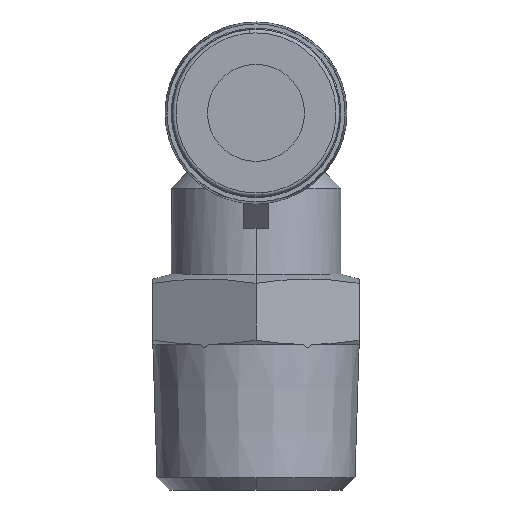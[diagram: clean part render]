
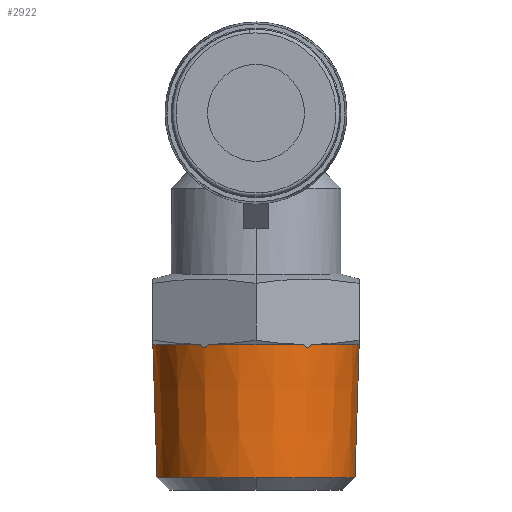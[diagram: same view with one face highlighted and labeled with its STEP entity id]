
A CAD part, left-side view. The second image highlights one B-rep face of the part: STEP entity #2922.
In plain terms, the highlighted conical face has half-angle 1.79 degrees and reference radius 8.508 mm.
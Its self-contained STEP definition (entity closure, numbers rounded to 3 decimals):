
#4 = EDGE_CURVE ( 'NONE', #1217, #2783, #3505, .T. ) ;
#32 = CIRCLE ( 'NONE', #2665, 8.508 ) ;
#91 = CARTESIAN_POINT ( 'NONE',  ( 0., -8.508, 12. ) ) ;
#123 = CARTESIAN_POINT ( 'NONE',  ( 0., 8.508, 12. ) ) ;
#136 = CARTESIAN_POINT ( 'NONE',  ( -7.541, 3.939, 12. ) ) ;
#148 = EDGE_CURVE ( 'NONE', #2166, #2783, #1481, .T. ) ;
#191 = CARTESIAN_POINT ( 'NONE',  ( 0., 0., 1.014 ) ) ;
#205 = DIRECTION ( 'NONE',  ( 0., 0.031, 1. ) ) ;
#274 = DIRECTION ( 'NONE',  ( 0., 0., 1. ) ) ;
#330 = DIRECTION ( 'NONE',  ( -0.036, 0.999, 0. ) ) ;
#489 = CARTESIAN_POINT ( 'NONE',  ( 0., -8.5, 11.758 ) ) ;
#508 = ORIENTED_EDGE ( 'NONE', *, *, #3647, .T. ) ;
#545 = DIRECTION ( 'NONE',  ( -0.884, 0.468, 0. ) ) ;
#569 = CARTESIAN_POINT ( 'NONE',  ( -7.398, -4.186, 11.758 ) ) ;
#570 = CARTESIAN_POINT ( 'NONE',  ( 0., 0., 12. ) ) ;
#603 = DIRECTION ( 'NONE',  ( 0., 0., 1. ) ) ;
#605 = CARTESIAN_POINT ( 'NONE',  ( -7.182, 4.561, 12. ) ) ;
#616 = FACE_OUTER_BOUND ( 'NONE', #2422, .T. ) ;
#624 = CARTESIAN_POINT ( 'NONE',  ( -0.146, -8.5, 11.792 ) ) ;
#717 = CARTESIAN_POINT ( 'NONE',  ( -0.359, 8.5, 12. ) ) ;
#718 = CARTESIAN_POINT ( 'NONE',  ( -0.264, -8.5, 11.883 ) ) ;
#760 = CARTESIAN_POINT ( 'NONE',  ( -7.182, -4.561, 12. ) ) ;
#767 = CARTESIAN_POINT ( 'NONE',  ( -0.314, -8.5, 11.94 ) ) ;
#847 = CARTESIAN_POINT ( 'NONE',  ( -7.204, -4.522, 11.94 ) ) ;
#897 = EDGE_CURVE ( 'NONE', #2287, #3228, #32, .T. ) ;
#904 = ORIENTED_EDGE ( 'NONE', *, *, #3640, .F. ) ;
#911 = VERTEX_POINT ( 'NONE', #1701 ) ;
#942 = EDGE_CURVE ( 'NONE', #2874, #1268, #2943, .T. ) ;
#991 = ORIENTED_EDGE ( 'NONE', *, *, #3287, .T. ) ;
#1025 = CARTESIAN_POINT ( 'NONE',  ( -0.075, -8.5, 11.758 ) ) ;
#1156 = LINE ( 'NONE', #91, #1950 ) ;
#1165 = CARTESIAN_POINT ( 'NONE',  ( 0., 8.164, 1.014 ) ) ;
#1217 = VERTEX_POINT ( 'NONE', #1165 ) ;
#1268 = VERTEX_POINT ( 'NONE', #1782 ) ;
#1423 = DIRECTION ( 'NONE',  ( 0., 0., 1. ) ) ;
#1449 = CARTESIAN_POINT ( 'NONE',  ( -0.359, -8.5, 12. ) ) ;
#1481 = B_SPLINE_CURVE_WITH_KNOTS ( 'NONE', 3,
 ( #3428, #3578, #3452, #3308, #3666, #3641 ),
 .UNSPECIFIED., .F., .F.,
 ( 4, 2, 4 ),
 ( 0., 0., 0. ),
 .UNSPECIFIED. ) ;
#1528 = DIRECTION ( 'NONE',  ( 0., 0., 1. ) ) ;
#1567 = CARTESIAN_POINT ( 'NONE',  ( -7.518, 3.978, 11.94 ) ) ;
#1585 = ORIENTED_EDGE ( 'NONE', *, *, #148, .T. ) ;
#1608 = CARTESIAN_POINT ( 'NONE',  ( 0., 0., 12. ) ) ;
#1610 = EDGE_CURVE ( 'NONE', #1268, #2227, #1156, .T. ) ;
#1667 = DIRECTION ( 'NONE',  ( 0., -0.031, 1. ) ) ;
#1671 = B_SPLINE_CURVE_WITH_KNOTS ( 'NONE', 3,
 ( #3238, #847, #2978, #2929, #2895, #569, #2672, #2633, #2620, #2611 ),
 .UNSPECIFIED., .F., .F.,
 ( 4, 2, 2, 2, 4 ),
 ( 0., 0., 0., 0.001, 0.001 ),
 .UNSPECIFIED. ) ;
#1679 = CARTESIAN_POINT ( 'NONE',  ( -7.541, 3.939, 12. ) ) ;
#1701 = CARTESIAN_POINT ( 'NONE',  ( -7.541, -3.939, 12. ) ) ;
#1713 = CARTESIAN_POINT ( 'NONE',  ( -7.494, 4.02, 11.884 ) ) ;
#1719 = CARTESIAN_POINT ( 'NONE',  ( -7.435, 4.122, 11.793 ) ) ;
#1725 = CARTESIAN_POINT ( 'NONE',  ( -7.324, 4.314, 11.758 ) ) ;
#1738 = CARTESIAN_POINT ( 'NONE',  ( -7.288, 4.376, 11.791 ) ) ;
#1754 = CARTESIAN_POINT ( 'NONE',  ( -7.229, 4.479, 11.883 ) ) ;
#1768 = ORIENTED_EDGE ( 'NONE', *, *, #3171, .F. ) ;
#1779 = CARTESIAN_POINT ( 'NONE',  ( -7.204, 4.522, 11.94 ) ) ;
#1782 = CARTESIAN_POINT ( 'NONE',  ( 0., -8.164, 1.014 ) ) ;
#1785 = CARTESIAN_POINT ( 'NONE',  ( -7.182, 4.561, 12. ) ) ;
#1793 = AXIS2_PLACEMENT_3D ( 'NONE', #191, #1423, #1804 ) ;
#1804 = DIRECTION ( 'NONE',  ( -0.998, 0.065, 0. ) ) ;
#1814 = AXIS2_PLACEMENT_3D ( 'NONE', #1945, #1970, #2335 ) ;
#1864 = ORIENTED_EDGE ( 'NONE', *, *, #2418, .T. ) ;
#1945 = CARTESIAN_POINT ( 'NONE',  ( 0., 0., 12. ) ) ;
#1950 = VECTOR ( 'NONE', #1667, 1000. ) ;
#1970 = DIRECTION ( 'NONE',  ( 0., 0., 1. ) ) ;
#1991 = CARTESIAN_POINT ( 'NONE',  ( -7.399, 4.184, 11.758 ) ) ;
#2025 = VERTEX_POINT ( 'NONE', #605 ) ;
#2129 = CIRCLE ( 'NONE', #3146, 8.508 ) ;
#2166 = VERTEX_POINT ( 'NONE', #717 ) ;
#2223 = AXIS2_PLACEMENT_3D ( 'NONE', #3652, #274, #330 ) ;
#2227 = VERTEX_POINT ( 'NONE', #3708 ) ;
#2287 = VERTEX_POINT ( 'NONE', #760 ) ;
#2305 = DIRECTION ( 'NONE',  ( -0.998, 0.065, 0. ) ) ;
#2335 = DIRECTION ( 'NONE',  ( 0., -1., 0. ) ) ;
#2371 = ORIENTED_EDGE ( 'NONE', *, *, #3610, .T. ) ;
#2389 = DIRECTION ( 'NONE',  ( 0., 0., 1. ) ) ;
#2418 = EDGE_CURVE ( 'NONE', #2287, #911, #1671, .T. ) ;
#2422 = EDGE_LOOP ( 'NONE', ( #2463, #2371, #3699, #3605, #508, #3426, #1864, #1768, #991, #904, #1585 ) ) ;
#2436 = CIRCLE ( 'NONE', #2223, 8.508 ) ;
#2463 = ORIENTED_EDGE ( 'NONE', *, *, #4, .F. ) ;
#2611 = CARTESIAN_POINT ( 'NONE',  ( -7.541, -3.939, 12. ) ) ;
#2620 = CARTESIAN_POINT ( 'NONE',  ( -7.518, -3.978, 11.94 ) ) ;
#2633 = CARTESIAN_POINT ( 'NONE',  ( -7.493, -4.021, 11.883 ) ) ;
#2665 = AXIS2_PLACEMENT_3D ( 'NONE', #1608, #1528, #3050 ) ;
#2672 = CARTESIAN_POINT ( 'NONE',  ( -7.434, -4.124, 11.791 ) ) ;
#2767 = VECTOR ( 'NONE', #205, 1000. ) ;
#2783 = VERTEX_POINT ( 'NONE', #3424 ) ;
#2850 = CARTESIAN_POINT ( 'NONE',  ( -0.359, -8.5, 12. ) ) ;
#2869 = CARTESIAN_POINT ( 'NONE',  ( -8.164, 0., 1.014 ) ) ;
#2874 = VERTEX_POINT ( 'NONE', #2869 ) ;
#2895 = CARTESIAN_POINT ( 'NONE',  ( -7.323, -4.316, 11.758 ) ) ;
#2922 = ADVANCED_FACE ( '89', ( #616 ), #3534, .T. ) ;
#2929 = CARTESIAN_POINT ( 'NONE',  ( -7.287, -4.378, 11.793 ) ) ;
#2943 = CIRCLE ( 'NONE', #3414, 8.164 ) ;
#2978 = CARTESIAN_POINT ( 'NONE',  ( -7.228, -4.48, 11.884 ) ) ;
#3000 = CARTESIAN_POINT ( 'NONE',  ( 0., 0., 1.014 ) ) ;
#3014 = B_SPLINE_CURVE_WITH_KNOTS ( 'NONE', 3,
 ( #489, #1025, #624, #718, #767, #1449 ),
 .UNSPECIFIED., .F., .F.,
 ( 4, 2, 4 ),
 ( 0., 0.001, 0.001 ),
 .UNSPECIFIED. ) ;
#3049 = VERTEX_POINT ( 'NONE', #136 ) ;
#3050 = DIRECTION ( 'NONE',  ( -0.847, -0.531, 0. ) ) ;
#3146 = AXIS2_PLACEMENT_3D ( 'NONE', #570, #603, #545 ) ;
#3171 = EDGE_CURVE ( 'NONE', #3049, #911, #2129, .T. ) ;
#3228 = VERTEX_POINT ( 'NONE', #2850 ) ;
#3238 = CARTESIAN_POINT ( 'NONE',  ( -7.182, -4.561, 12. ) ) ;
#3271 = CIRCLE ( 'NONE', #1793, 8.164 ) ;
#3287 = EDGE_CURVE ( 'NONE', #3049, #2025, #3745, .T. ) ;
#3308 = CARTESIAN_POINT ( 'NONE',  ( -0.147, 8.5, 11.792 ) ) ;
#3414 = AXIS2_PLACEMENT_3D ( 'NONE', #3000, #2389, #2305 ) ;
#3424 = CARTESIAN_POINT ( 'NONE',  ( 0., 8.5, 11.758 ) ) ;
#3426 = ORIENTED_EDGE ( 'NONE', *, *, #897, .F. ) ;
#3428 = CARTESIAN_POINT ( 'NONE',  ( -0.359, 8.5, 12. ) ) ;
#3452 = CARTESIAN_POINT ( 'NONE',  ( -0.265, 8.5, 11.884 ) ) ;
#3505 = LINE ( 'NONE', #123, #2767 ) ;
#3534 = CONICAL_SURFACE ( 'NONE', #1814, 8.508, 0.031 ) ;
#3578 = CARTESIAN_POINT ( 'NONE',  ( -0.314, 8.5, 11.94 ) ) ;
#3605 = ORIENTED_EDGE ( 'NONE', *, *, #1610, .T. ) ;
#3610 = EDGE_CURVE ( 'NONE', #1217, #2874, #3271, .T. ) ;
#3640 = EDGE_CURVE ( 'NONE', #2166, #2025, #2436, .T. ) ;
#3641 = CARTESIAN_POINT ( 'NONE',  ( 0., 8.5, 11.758 ) ) ;
#3647 = EDGE_CURVE ( 'NONE', #2227, #3228, #3014, .T. ) ;
#3652 = CARTESIAN_POINT ( 'NONE',  ( 0., 0., 12. ) ) ;
#3666 = CARTESIAN_POINT ( 'NONE',  ( -0.075, 8.5, 11.758 ) ) ;
#3699 = ORIENTED_EDGE ( 'NONE', *, *, #942, .T. ) ;
#3708 = CARTESIAN_POINT ( 'NONE',  ( 0., -8.5, 11.758 ) ) ;
#3745 = B_SPLINE_CURVE_WITH_KNOTS ( 'NONE', 3,
 ( #1679, #1567, #1713, #1719, #1991, #1725, #1738, #1754, #1779, #1785 ),
 .UNSPECIFIED., .F., .F.,
 ( 4, 2, 2, 2, 4 ),
 ( 0., 0., 0., 0.001, 0.001 ),
 .UNSPECIFIED. ) ;
